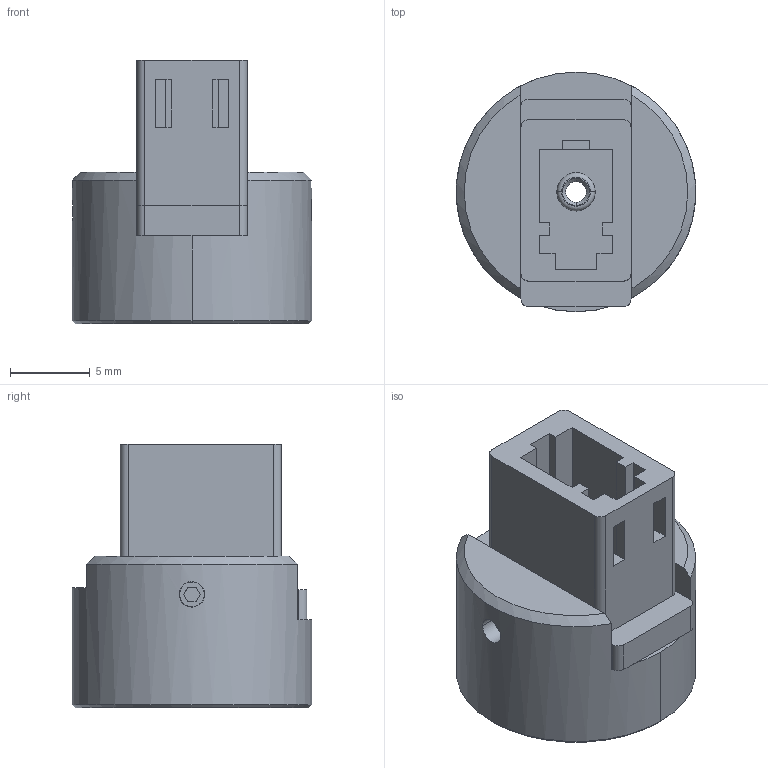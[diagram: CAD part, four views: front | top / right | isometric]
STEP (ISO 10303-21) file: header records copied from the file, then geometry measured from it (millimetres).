
FILE_DESCRIPTION (( 'STEP AP203' ), '1' );
FILE_NAME ('17856-E01.STEP', '2017-05-03T06:31:23', ( '' ), ( '' ), 'SwSTEP 2.0', 'SolidWorks 2016', '' );
FILE_SCHEMA (( 'CONFIG_CONTROL_DESIGN' ));
Length unit declared in the file: millimetre
Products named in the file (1): 17856-E01
Bounding box: 15 x 15 x 16.5 mm (x, y, z)
Volume: 1161.3 mm3; surface area: 2216.3 mm2
Topology: 4 solids, 4 shells, 116 faces, 299 edges, 190 vertices
Faces by surface type: plane 67, cylinder 26, cone 19, torus 2, bspline 2
Entity records: 4523 total; most frequent: CARTESIAN_POINT 1618, ORIENTED_EDGE 590, DIRECTION 572, EDGE_CURVE 295, LINE 208, VECTOR 208, VERTEX_POINT 190, AXIS2_PLACEMENT_3D 182
